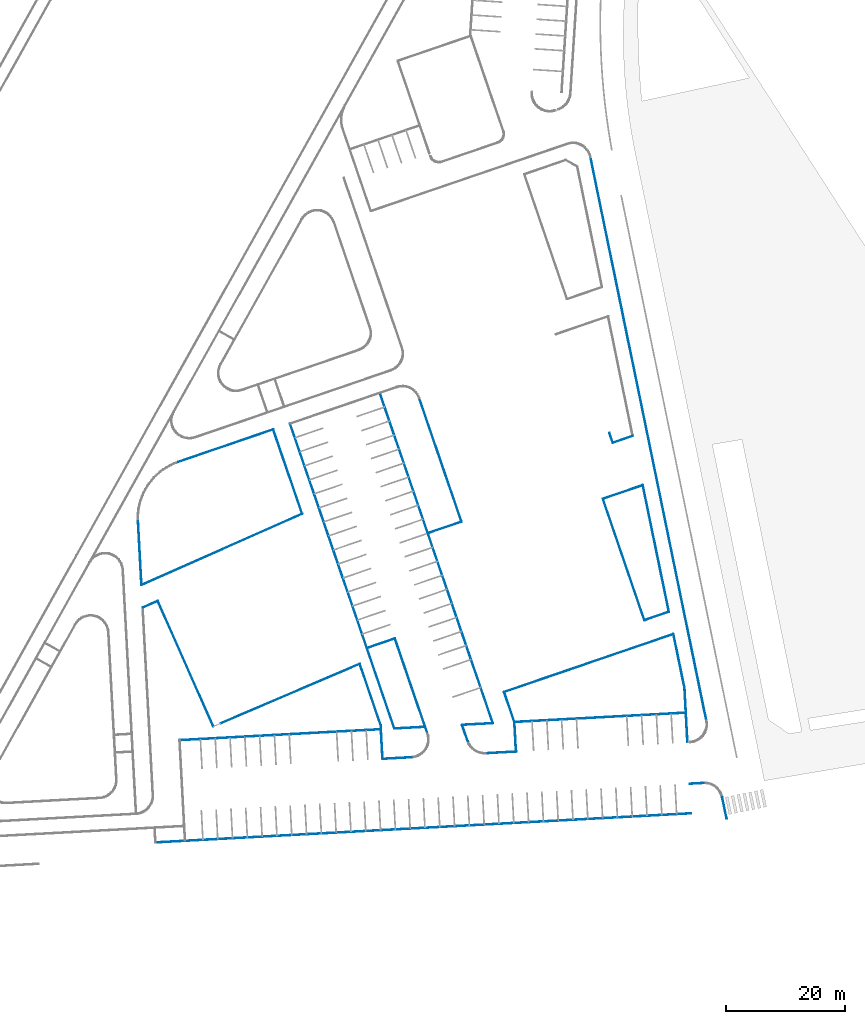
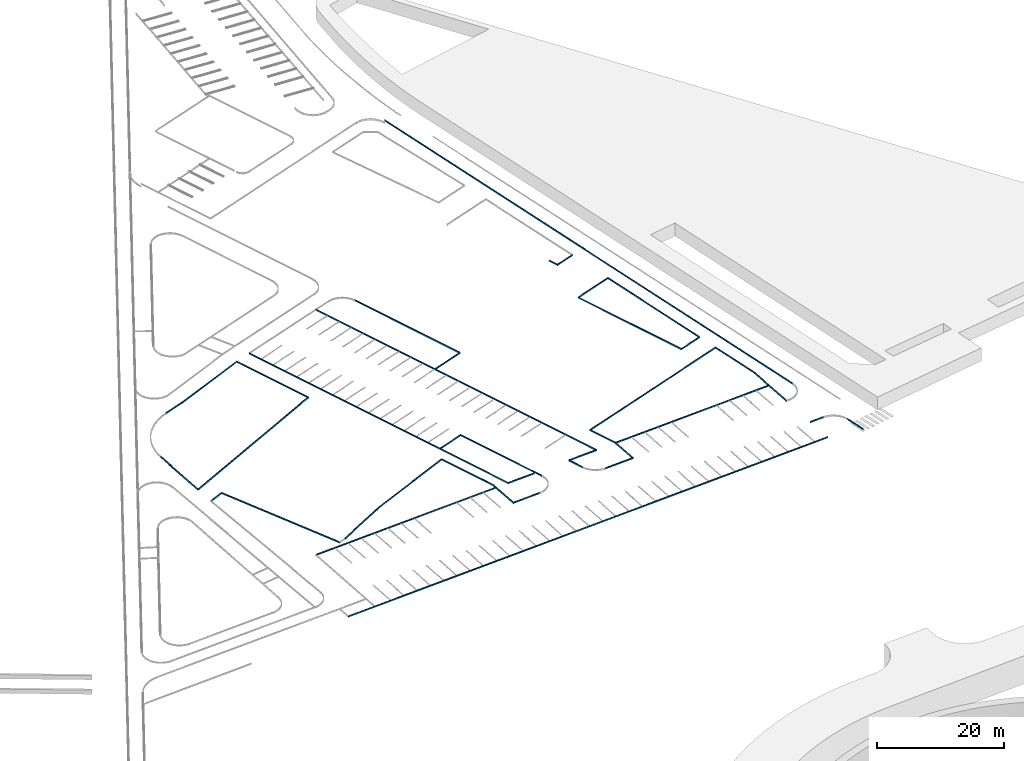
# One storey, part 4 of 112: 41 beams.
"""IFC2X3 building model written with IfcOpenShell, lengths in millimetres."""

import ifcopenshell
import ifcopenshell.guid

model = None  # the IFC model being written
_history = None  # IfcOwnerHistory: only IFC2X3 demands one
_inside = {}  # id of a spatial element -> (the spatial element, [elements in it])
_under = {}  # id of a project, library or spatial element -> (it, [spatial elements below it])
_declared = {}  # id of a project -> (the project, [libraries it declares])
_typed = {}  # id of a type object -> (the type object, [elements of that type])
_made_of = {}  # id of a material, layer set ... -> (it, [elements and type objects made of it])


def new_model(schema):
    """Start an empty IFC model of exactly this schema.

    Asked for "IFC4X3", IfcOpenShell would pick the latest addendum, in which some entities
    have other attributes; the version numbers below select the first issue.
    IFC2X3 requires an IfcOwnerHistory on every rooted entity: one is made here for all.
    """
    global model, _history
    if schema == "IFC4X3":
        model = ifcopenshell.file(schema_version=(4, 3, 0, 0))
    else:
        model = ifcopenshell.file(schema=schema)
    _inside.clear()
    _under.clear()
    _declared.clear()
    _typed.clear()
    _made_of.clear()
    _history = None
    if model.schema == "IFC2X3":
        org = make("IfcOrganization", Name="unknown")
        user = make(
            "IfcPersonAndOrganization",
            ThePerson=make("IfcPerson", FamilyName="unknown"),
            TheOrganization=org,
        )
        app = make(
            "IfcApplication",
            ApplicationDeveloper=org,
            Version="unknown",
            ApplicationFullName="unknown",
            ApplicationIdentifier="unknown",
        )
        _history = make(
            "IfcOwnerHistory",
            OwningUser=user,
            OwningApplication=app,
            ChangeAction="ADDED",
            CreationDate=0,
        )
    return model


def make(cls, **values):
    """One entity of the class cls with the attributes given. An attribute that is None is left unset."""
    return model.create_entity(
        cls, **{name: value for name, value in values.items() if value is not None}
    )


def entity(cls, *values):
    """Any entity or typed value of the class cls, its attributes in the order of the schema. None: left unset."""
    e = model.create_entity(cls)
    for i, value in enumerate(values):
        if value is not None:
            e[i] = value
    return e


def rooted(cls, **values):
    """An entity with a GlobalId (a new one), such as an element, a storey or a relation."""
    return make(cls, GlobalId=ifcopenshell.guid.new(), OwnerHistory=_history, **values)


def si_unit(unit_type, name, prefix=None):
    """IfcSIUnit, for example si_unit("LENGTHUNIT", "METRE", prefix="MILLI")."""
    return make("IfcSIUnit", UnitType=unit_type, Prefix=prefix, Name=name)


def converted_unit(unit_type, name, factor, base, dimensions=None, offset=None):
    """IfcConversionBasedUnit, such as the inch: factor (a typed value) times the base unit."""
    return make(
        "IfcConversionBasedUnit"
        if offset is None
        else "IfcConversionBasedUnitWithOffset",
        ConversionOffset=offset,
        Dimensions=None
        if dimensions is None
        else entity("IfcDimensionalExponents", *dimensions),
        UnitType=unit_type,
        Name=name,
        ConversionFactor=make(
            "IfcMeasureWithUnit", ValueComponent=factor, UnitComponent=base
        ),
    )


def derived_unit(unit_type, elements):
    """IfcDerivedUnit: a product of units, each with its exponent."""
    return make(
        "IfcDerivedUnit",
        Elements=[
            make("IfcDerivedUnitElement", Unit=unit, Exponent=power)
            for unit, power in elements
        ],
        UnitType=unit_type,
    )


def assignment(units):
    """IfcUnitAssignment: the units of a project."""
    return None if units is None else make("IfcUnitAssignment", Units=units)


def point(xyz):
    """IfcCartesianPoint."""
    return None if xyz is None else make("IfcCartesianPoint", Coordinates=xyz)


def direction(xyz):
    """IfcDirection."""
    return None if xyz is None else make("IfcDirection", DirectionRatios=xyz)


def frame(location, z_axis=None, x_axis=None):
    """IfcAxis2Placement3D, a coordinate frame: its origin and axes. An axis left out is left unset."""
    return make(
        "IfcAxis2Placement3D",
        Location=point(location),
        Axis=direction(z_axis),
        RefDirection=direction(x_axis),
    )


def frame_2d(location, x_axis=None):
    """IfcAxis2Placement2D, a coordinate frame in the plane: its origin and x axis."""
    return make(
        "IfcAxis2Placement2D", Location=point(location), RefDirection=direction(x_axis)
    )


def origin():
    """The frame at (0, 0, 0) with its axes left unset."""
    return frame((0.0, 0.0, 0.0))


def origin_2d_with_axis():
    """The frame at (0, 0) in the plane with the x axis (1, 0) written out."""
    return frame_2d((0.0, 0.0), x_axis=(1.0, 0.0))


def place(relative_to, where):
    """IfcLocalPlacement: puts the frame where relative to a parent placement (None: the world)."""
    return make(
        "IfcLocalPlacement", PlacementRelTo=relative_to, RelativePlacement=where
    )


def context(
    kind, dimensions, precision=None, world=None, true_north=None, identifier=None
):
    """IfcGeometricRepresentationContext, for example the 3D "Model" context."""
    return make(
        "IfcGeometricRepresentationContext",
        ContextIdentifier=identifier,
        ContextType=kind,
        CoordinateSpaceDimension=dimensions,
        Precision=precision,
        WorldCoordinateSystem=world,
        TrueNorth=true_north,
    )


def subcontext(parent, identifier, kind, view, scale=None):
    """IfcGeometricRepresentationSubContext, for example "Body" below "Model"."""
    return make(
        "IfcGeometricRepresentationSubContext",
        ContextIdentifier=identifier,
        ContextType=kind,
        ParentContext=parent,
        TargetScale=scale,
        TargetView=view,
    )


def project(units=None, contexts=None):
    """IfcProject with its units and contexts."""
    return rooted(
        "IfcProject",
        Name="project",
        RepresentationContexts=contexts,
        UnitsInContext=assignment(units),
    )


def spatial(cls, under=None, at=None, **own):
    """A site, building, storey or space (cls), placed at a placement, below another one or the project."""
    s = rooted(cls, ObjectPlacement=at, **own)
    if under is not None:
        _under.setdefault(under.id(), (under, []))[1].append(s)
    return s


def polyline(points):
    """IfcPolyline through the points."""
    return make("IfcPolyline", Points=[point(p) for p in points])


def profile(cls, at=None, kind="AREA", **sizes):
    """A parametric profile (cls). Its sizes go by their IFC names, for example OverallWidth=200.0."""
    return make(cls, ProfileType=kind, Position=at, **sizes)


def rectangle(**sizes):
    """IfcRectangleProfileDef."""
    return profile("IfcRectangleProfileDef", **sizes)


def outline(outer, holes=None, kind="AREA"):
    """IfcArbitraryClosedProfileDef: a profile drawn as a closed curve; with holes, ...WithVoids."""
    if holes is None:
        return make("IfcArbitraryClosedProfileDef", ProfileType=kind, OuterCurve=outer)
    return make(
        "IfcArbitraryProfileDefWithVoids",
        ProfileType=kind,
        OuterCurve=outer,
        InnerCurves=holes,
    )


def extrude(swept, where, along, depth):
    """IfcExtrudedAreaSolid: the profile swept, set in the frame where, extruded along a direction by depth."""
    return make(
        "IfcExtrudedAreaSolid",
        SweptArea=swept,
        Position=where,
        ExtrudedDirection=direction(along),
        Depth=depth,
    )


def shape(context_of_items, identifier, shape_type, items):
    """IfcShapeRepresentation: the items that make up one representation, for example the "Body"."""
    return make(
        "IfcShapeRepresentation",
        ContextOfItems=context_of_items,
        RepresentationIdentifier=identifier,
        RepresentationType=shape_type,
        Items=items,
    )


def material(Name=None, Category=None):
    """IfcMaterial."""
    return make("IfcMaterial", Name=Name, Category=Category)


def made_of(thing, what):
    """Note that an element or type object is made of a material, layer set ...; save() writes the relation."""
    if what is not None:
        _made_of.setdefault(what.id(), (what, []))[1].append(thing)
    return thing


def type_object(cls, material=None, **own):
    """A type object (cls), such as IfcWallType, which elements share."""
    return made_of(rooted(cls, **own), material)


def element(
    cls,
    number,
    at=None,
    inside=None,
    cuts=None,
    type_object=None,
    material=None,
    context=None,
    identifier="Body",
    shape_type=None,
    held_by="IfcProductDefinitionShape",
    body=None,
    shapes=None,
    **own,
):
    """One element of the class cls, such as IfcWall. Its Tag is "e" and its number.

    at: its placement. inside: the storey or other place that contains it. cuts: it is an
    opening in that element (IfcRelVoidsElement). A single representation is given by context,
    identifier, shape_type and body (its items); several are given by shapes. held_by: the class
    of the entity that holds the representations. save() writes the other relations.
    """
    e = rooted(cls, Tag="e%d" % number, ObjectPlacement=at, **own)
    if body is not None:
        shapes = [shape(context, identifier, shape_type, body)]
    if shapes is not None:
        e.Representation = make(held_by, Representations=shapes)
    if inside is not None:
        _inside.setdefault(inside.id(), (inside, []))[1].append(e)
    if cuts is not None:
        rooted(
            "IfcRelVoidsElement", RelatingBuildingElement=cuts, RelatedOpeningElement=e
        )
    if type_object is not None:
        _typed.setdefault(type_object.id(), (type_object, []))[1].append(e)
    return made_of(e, material)


def aggregate(whole, parts):
    """IfcRelAggregates: a whole, such as a stair, and the parts it consists of."""
    return rooted("IfcRelAggregates", RelatingObject=whole, RelatedObjects=parts)


def save(model, path):
    """Write the relations noted so far, then the file.

    IfcRelAggregates (storeys below a building ...), IfcRelContainedInSpatialStructure (elements
    in a storey), IfcRelDefinesByType, IfcRelAssociatesMaterial and IfcRelDeclares: one each for
    every whole, place, type object, material and project.
    """
    for whole, parts in _under.values():
        aggregate(whole, parts)
    for where, things in _inside.values():
        rooted(
            "IfcRelContainedInSpatialStructure",
            RelatedElements=things,
            RelatingStructure=where,
        )
    for kind, things in _typed.values():
        rooted("IfcRelDefinesByType", RelatedObjects=things, RelatingType=kind)
    for what, things in _made_of.values():
        rooted("IfcRelAssociatesMaterial", RelatedObjects=things, RelatingMaterial=what)
    for by, libraries in _declared.values():
        rooted("IfcRelDeclares", RelatingContext=by, RelatedDefinitions=libraries)
    model.write(path)


model = new_model("IFC2X3")

# Units and contexts
model_context = context("Model", 3, precision=0.01, world=origin(), true_north=direction((6.123031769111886e-17, 1.0)))
body_context = subcontext(model_context, "Body", "Model", "MODEL_VIEW")
ifc_project = project(units=[si_unit("LENGTHUNIT", "METRE", prefix="MILLI"), si_unit("AREAUNIT", "SQUARE_METRE"), si_unit("VOLUMEUNIT", "CUBIC_METRE"), converted_unit("PLANEANGLEUNIT", "DEGREE", entity("IfcRatioMeasure", 0.017453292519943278), si_unit("PLANEANGLEUNIT", "RADIAN"), dimensions=[0, 0, 0, 0, 0, 0, 0]), si_unit("MASSUNIT", "GRAM", prefix="KILO"), derived_unit("MASSDENSITYUNIT", [(si_unit("MASSUNIT", "GRAM", prefix="KILO"), 1), (si_unit("LENGTHUNIT", "METRE"), -3)]), derived_unit("MOMENTOFINERTIAUNIT", [(si_unit("LENGTHUNIT", "METRE"), 4)]), si_unit("TIMEUNIT", "SECOND"), si_unit("FREQUENCYUNIT", "HERTZ"), si_unit("THERMODYNAMICTEMPERATUREUNIT", "DEGREE_CELSIUS"), derived_unit("THERMALTRANSMITTANCEUNIT", [(si_unit("MASSUNIT", "GRAM", prefix="KILO"), 1), (si_unit("THERMODYNAMICTEMPERATUREUNIT", "KELVIN"), -1), (si_unit("TIMEUNIT", "SECOND"), -3)]), derived_unit("THERMALCONDUCTANCEUNIT", [(si_unit("MASSUNIT", "GRAM", prefix="KILO"), 1), (si_unit("LENGTHUNIT", "METRE"), 1), (si_unit("THERMODYNAMICTEMPERATUREUNIT", "KELVIN"), -1), (si_unit("TIMEUNIT", "SECOND"), -3)]), derived_unit("VOLUMETRICFLOWRATEUNIT", [(si_unit("LENGTHUNIT", "METRE"), 3), (si_unit("TIMEUNIT", "SECOND"), -1)]), derived_unit("MASSFLOWRATEUNIT", [(si_unit("MASSUNIT", "GRAM", prefix="KILO"), 1), (si_unit("TIMEUNIT", "SECOND"), -1)]), derived_unit("ROTATIONALFREQUENCYUNIT", [(si_unit("TIMEUNIT", "SECOND"), -1)]), si_unit("ELECTRICCURRENTUNIT", "AMPERE"), si_unit("ELECTRICVOLTAGEUNIT", "VOLT"), si_unit("POWERUNIT", "WATT"), converted_unit("FORCEUNIT", "KIP", entity("IfcRatioMeasure", 2.088543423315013e-05), si_unit("FORCEUNIT", "NEWTON"), dimensions=[1, 1, -2, 0, 0, 0, 0]), si_unit("ILLUMINANCEUNIT", "LUX"), si_unit("LUMINOUSFLUXUNIT", "LUMEN"), si_unit("LUMINOUSINTENSITYUNIT", "CANDELA"), derived_unit("USERDEFINED", [(si_unit("MASSUNIT", "GRAM", prefix="KILO"), -1), (si_unit("LENGTHUNIT", "METRE"), -2), (si_unit("TIMEUNIT", "SECOND"), 3), (si_unit("LUMINOUSFLUXUNIT", "LUMEN"), 1)]), derived_unit("USERDEFINED", [(si_unit("MASSUNIT", "GRAM", prefix="KILO"), 1), (si_unit("LENGTHUNIT", "METRE"), 3), (si_unit("TIMEUNIT", "SECOND"), -3), (si_unit("ELECTRICCURRENTUNIT", "AMPERE"), -2)]), derived_unit("USERDEFINED", [(si_unit("LENGTHUNIT", "METRE"), 2), (si_unit("TIMEUNIT", "SECOND"), -2)]), derived_unit("SOUNDPOWERUNIT", [(si_unit("MASSUNIT", "GRAM", prefix="KILO"), 1), (si_unit("LENGTHUNIT", "METRE"), 2), (si_unit("TIMEUNIT", "SECOND"), -3)]), derived_unit("SOUNDPRESSUREUNIT", [(si_unit("MASSUNIT", "GRAM", prefix="KILO"), 1), (si_unit("LENGTHUNIT", "METRE"), -1), (si_unit("TIMEUNIT", "SECOND"), -2)]), derived_unit("LINEARVELOCITYUNIT", [(si_unit("LENGTHUNIT", "METRE"), 1), (si_unit("TIMEUNIT", "SECOND"), -1)]), si_unit("PRESSUREUNIT", "PASCAL"), derived_unit("USERDEFINED", [(si_unit("LENGTHUNIT", "METRE"), -2), (si_unit("MASSUNIT", "GRAM", prefix="KILO"), 1), (si_unit("TIMEUNIT", "SECOND"), -2)]), derived_unit("LINEARFORCEUNIT", [(si_unit("MASSUNIT", "GRAM", prefix="KILO"), 1), (si_unit("LENGTHUNIT", "METRE"), 1), (si_unit("TIMEUNIT", "SECOND"), -2), (si_unit("LENGTHUNIT", "METRE"), -1)]), derived_unit("PLANARFORCEUNIT", [(si_unit("MASSUNIT", "GRAM", prefix="KILO"), 1), (si_unit("LENGTHUNIT", "METRE"), 1), (si_unit("TIMEUNIT", "SECOND"), -2), (si_unit("LENGTHUNIT", "METRE"), -2)]), derived_unit("SPECIFICHEATCAPACITYUNIT", [(si_unit("LENGTHUNIT", "METRE"), 2), (si_unit("TIMEUNIT", "SECOND"), -2), (si_unit("THERMODYNAMICTEMPERATUREUNIT", "KELVIN"), -1)]), derived_unit("VAPORPERMEABILITYUNIT", [(si_unit("TIMEUNIT", "SECOND"), 1), (si_unit("LENGTHUNIT", "METRE"), -1)]), derived_unit("DYNAMICVISCOSITYUNIT", [(si_unit("MASSUNIT", "GRAM", prefix="KILO"), 1), (si_unit("LENGTHUNIT", "METRE"), -1), (si_unit("TIMEUNIT", "SECOND"), -1)]), derived_unit("THERMALEXPANSIONCOEFFICIENTUNIT", [(si_unit("THERMODYNAMICTEMPERATUREUNIT", "KELVIN"), -1)])], contexts=[model_context])

# Site, building, storey
site_placement = place(None, frame((0.0, 0.0, 0.0), z_axis=(0.0, 0.0, 1.0), x_axis=(0.8191520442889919, 0.5735764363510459, 0.0)))
site = spatial("IfcSite", under=ifc_project, at=site_placement, Name="Default", CompositionType="ELEMENT")
building_placement = place(site_placement, origin())
building = spatial("IfcBuilding", under=site, at=building_placement, CompositionType="ELEMENT")
storey_placement = place(building_placement, frame((0.0, 0.0, -3600.0)))
storey = spatial("IfcBuildingStorey", under=building, at=storey_placement, Name="0.UG -3.60", CompositionType="ELEMENT", Elevation=-3600.0000000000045)

# Beams
ifc_material_1 = material(Name="Paveta_bordur")
beam_type_1 = type_object("IfcBeamType", Name="Beam-148 238221:Beam-148 238221", PredefinedType="NOTDEFINED")
beam_1_placement = place(storey_placement, origin())
element("IfcBeam", 1, at=beam_1_placement, inside=storey, type_object=beam_type_1, material=ifc_material_1, Name="Beam-148", ObjectType="Beam-148 238221:Beam-148 238221", context=body_context, shape_type="SweptSolid", body=[
    extrude(rectangle(XDim=250.00000000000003, YDim=100.0000000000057, at=frame_2d((2.7000623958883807e-13, 0.0), x_axis=(1.0, 0.0))), frame((13169.27370526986, 111675.39253456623, 985.0), z_axis=(0.9607329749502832, -0.27747459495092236, 0.0), x_axis=(0.0, 0.0, -1.0)), (0.0, 0.0, 1.0), 3960.1009387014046),
])
ifc_material_2 = material(Name="Paint-01")
beam_type_2 = type_object("IfcBeamType", Name="Beam-153 238199:Beam-153 238199", PredefinedType="NOTDEFINED")
beam_2_placement = place(storey_placement, origin())
element("IfcBeam", 2, at=beam_2_placement, inside=storey, type_object=beam_type_2, material=ifc_material_2, Name="Beam-153", ObjectType="Beam-153 238199:Beam-153 238199", context=body_context, shape_type="SweptSolid", body=[
    extrude(outline(polyline([(-4426.287011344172, -125.0), (4454.331498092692, -125.0), (4426.287011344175, 125.0), (-4454.331498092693, 125.0), (-4426.287011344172, -125.0)])), frame((-1919.4892485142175, 70501.17873786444, 1479.2159656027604), z_axis=(0.20554091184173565, 0.9786485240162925, 0.0), x_axis=(-0.9725484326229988, 0.20425973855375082, -0.1114787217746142)), (0.0, 0.0, 1.0), 100.00000000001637),
])
beam_type_3 = type_object("IfcBeamType", Name="Beam-165 237974:Beam-165 237974", PredefinedType="NOTDEFINED")
beam_3_placement = place(storey_placement, origin())
element("IfcBeam", 3, at=beam_3_placement, inside=storey, type_object=beam_type_3, material=ifc_material_1, Name="Beam-165", ObjectType="Beam-165 237974:Beam-165 237974", context=body_context, shape_type="SweptSolid", body=[
    extrude(rectangle(XDim=250.00000000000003, YDim=99.99999999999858, at=frame_2d((3.673505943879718e-12, 0.0), x_axis=(0.0, 1.0))), frame((59065.214530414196, 27915.97074226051, 1985.0), z_axis=(0.5283279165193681, 0.8490404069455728, 0.0), x_axis=(0.8490404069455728, -0.5283279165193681, 0.0)), (0.0, 0.0, 1.0), 4201.481675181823),
])
beam_type_4 = type_object("IfcBeamType", Name="Beam-146 237399:Beam-146 237399", PredefinedType="NOTDEFINED")
beam_4_placement = place(storey_placement, origin())
element("IfcBeam", 4, at=beam_4_placement, inside=storey, type_object=beam_type_4, material=ifc_material_2, Name="Beam-146", ObjectType="Beam-146 237399:Beam-146 237399", context=body_context, shape_type="SweptSolid", body=[
    extrude(outline(polyline([(-13665.303815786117, -125.0), (13674.362537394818, -125.0), (13665.303815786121, 125.0), (-13674.36253739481, 125.0), (-13665.303815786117, -125.0)])), frame((9617.0371733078, 95541.30141555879, 1479.9179664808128), z_axis=(0.19236652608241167, 0.9813231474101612, 0.0), x_axis=(0.9806795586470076, -0.19224036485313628, 0.03621112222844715)), (0.0, 0.0, 1.0), 100.00000000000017),
])
beam_type_5 = type_object("IfcBeamType", Name="Beam-146 237398:Beam-146 237398", PredefinedType="NOTDEFINED")
beam_5_placement = place(storey_placement, origin())
element("IfcBeam", 5, at=beam_5_placement, inside=storey, type_object=beam_type_5, material=ifc_material_1, Name="Beam-146", ObjectType="Beam-146 237398:Beam-146 237398", context=body_context, shape_type="SweptSolid", body=[
    extrude(rectangle(XDim=250.00000000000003, YDim=100.0000000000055, at=frame_2d((0.0, 0.0), x_axis=(0.0, 1.0))), frame((23032.38146600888, 92962.47385558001, 2010.6807079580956), z_axis=(0.9813231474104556, -0.19236652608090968, 0.0), x_axis=(-0.19236652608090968, -0.9813231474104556, 0.0)), (0.0, 0.0, 1.0), 2309.356861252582),
])
beam_type_6 = type_object("IfcBeamType", Name="Beam-145 237387:Beam-145 237387", PredefinedType="NOTDEFINED")
beam_6_placement = place(storey_placement, origin())
element("IfcBeam", 6, at=beam_6_placement, inside=storey, type_object=beam_type_6, material=ifc_material_1, Name="Beam-145", ObjectType="Beam-145 237387:Beam-145 237387", context=body_context, shape_type="SweptSolid", body=[
    extrude(rectangle(XDim=250.00000000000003, YDim=99.99999999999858, at=frame_2d((2.7000623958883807e-13, -7.794653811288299e-12), x_axis=(1.0, 0.0))), frame((-3779.0704667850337, 98218.26129027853, 985.0), z_axis=(0.5283279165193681, 0.8490404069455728, 0.0), x_axis=(0.0, 0.0, -1.0)), (0.0, 0.0, 1.0), 10756.944646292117),
])
beam_type_7 = type_object("IfcBeamType", Name="Beam-147 237382:Beam-147 237382", PredefinedType="NOTDEFINED")
beam_7_placement = place(storey_placement, origin())
element("IfcBeam", 7, at=beam_7_placement, inside=storey, type_object=beam_type_7, material=ifc_material_1, Name="Beam-147", ObjectType="Beam-147 237382:Beam-147 237382", context=body_context, shape_type="SweptSolid", body=[
    extrude(rectangle(XDim=250.00000000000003, YDim=100.00000000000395, at=frame_2d((-4.479971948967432e-12, 0.0), x_axis=(0.0, 1.0))), frame((25298.606809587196, 92518.23089869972, 1985.0), z_axis=(0.2774745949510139, 0.9607329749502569, 0.0), x_axis=(0.9607329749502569, -0.2774745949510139, 0.0)), (0.0, 0.0, 1.0), 15039.335099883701),
])
beam_type_8 = type_object("IfcBeamType", Name="Beam-148 237381:Beam-148 237381", PredefinedType="NOTDEFINED")
beam_8_placement = place(storey_placement, origin())
element("IfcBeam", 8, at=beam_8_placement, inside=storey, type_object=beam_type_8, material=ifc_material_2, Name="Beam-148", ObjectType="Beam-148 237381:Beam-148 237381", context=body_context, shape_type="SweptSolid", body=[
    extrude(outline(polyline([(-6514.363546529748, -125.0), (6533.90943481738, -125.0), (6514.363546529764, 125.0), (-6533.909434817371, 125.0), (-6514.363546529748, -125.0)])), frame((23208.88301323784, 108723.75394181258, 1476.0902326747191), z_axis=(0.27747459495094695, 0.9607329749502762, 0.0), x_axis=(-0.9578100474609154, 0.27663040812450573, -0.07794568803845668)), (0.0, 0.0, 1.0), 100.00000000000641),
])
beam_type_9 = type_object("IfcBeamType", Name="Beam-148 237353:Beam-148 237353", PredefinedType="NOTDEFINED")
beam_9_placement = place(storey_placement, origin())
element("IfcBeam", 9, at=beam_9_placement, inside=storey, type_object=beam_type_9, material=ifc_material_1, Name="Beam-148", ObjectType="Beam-148 237353:Beam-148 237353", context=body_context, shape_type="SweptSolid", body=[
    extrude(rectangle(XDim=250.00000000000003, YDim=99.99999999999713, at=frame_2d((2.7000623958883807e-13, 1.0302869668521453e-13), x_axis=(1.0, 0.0))), frame((-5790.415317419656, 94985.96370180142, 985.0), z_axis=(0.9813231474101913, -0.19236652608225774, 0.0), x_axis=(0.0, 0.0, -1.0)), (0.0, 0.0, 1.0), 2772.992125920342),
])
beam_type_10 = type_object("IfcBeamType", Name="Beam-151 237315:Beam-151 237315", PredefinedType="NOTDEFINED")
beam_10_placement = place(storey_placement, origin())
element("IfcBeam", 10, at=beam_10_placement, inside=storey, type_object=beam_type_10, material=ifc_material_1, Name="Beam-151", ObjectType="Beam-151 237315:Beam-151 237315", context=body_context, shape_type="SweptSolid", body=[
    extrude(rectangle(XDim=250.00000000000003, YDim=100.00000000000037, at=frame_2d((5.258016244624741e-13, -2.7000623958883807e-13), x_axis=(0.0, 1.0))), frame((-7537.205577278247, 71732.13194232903, 985.0), z_axis=(0.1929555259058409, 0.9812075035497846, 0.0), x_axis=(0.9812075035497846, -0.1929555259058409, 0.0)), (0.0, 0.0, 1.0), 23155.551517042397),
])
beam_type_11 = type_object("IfcBeamType", Name="Beam-151 237307:Beam-151 237307", PredefinedType="NOTDEFINED")
beam_11_placement = place(storey_placement, origin())
element("IfcBeam", 11, at=beam_11_placement, inside=storey, type_object=beam_type_11, material=ifc_material_1, Name="Beam-151", ObjectType="Beam-151 237307:Beam-151 237307", context=body_context, shape_type="SweptSolid", body=[
    extrude(rectangle(XDim=250.00000000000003, YDim=99.99999999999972, at=frame_2d((-4.2525982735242e-12, 0.0), x_axis=(0.0, 1.0))), frame((-13527.740272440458, 73088.00759018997, 1985.0), z_axis=(0.849040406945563, -0.5283279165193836, 0.0), x_axis=(-0.5283279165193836, -0.849040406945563, 0.0)), (0.0, 0.0, 1.0), 34000.0),
])
beam_type_12 = type_object("IfcBeamType", Name="Beam-153 237306:Beam-153 237306", PredefinedType="NOTDEFINED")
beam_12_placement = place(storey_placement, origin())
element("IfcBeam", 12, at=beam_12_placement, inside=storey, type_object=beam_type_12, material=ifc_material_1, Name="Beam-153", ObjectType="Beam-153 237306:Beam-153 237306", context=body_context, shape_type="SweptSolid", body=[
    extrude(rectangle(XDim=250.00000000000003, YDim=99.99999999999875, at=frame_2d((0.0, 4.433786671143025e-12), x_axis=(1.0, 0.0))), frame((2390.6263118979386, 69647.03645703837, 1985.0), z_axis=(0.9786485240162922, -0.20554091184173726, 0.0), x_axis=(0.0, 0.0, -1.0)), (0.0, 0.0, 1.0), 16708.186103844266),
])
beam_type_13 = type_object("IfcBeamType", Name="Beam-155 237293:Beam-155 237293", PredefinedType="NOTDEFINED")
beam_13_placement = place(storey_placement, origin())
element("IfcBeam", 13, at=beam_13_placement, inside=storey, type_object=beam_type_13, material=ifc_material_1, Name="Beam-155", ObjectType="Beam-155 237293:Beam-155 237293", context=body_context, shape_type="SweptSolid", body=[
    extrude(rectangle(XDim=250.00000000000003, YDim=99.99999999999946, at=frame_2d((2.241762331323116e-12, 0.0), x_axis=(0.0, 1.0))), frame((15712.972430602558, 55724.8263150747, 1985.0), z_axis=(0.27747459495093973, 0.9607329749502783, 0.0), x_axis=(0.9607329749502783, -0.27747459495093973, 0.0)), (0.0, 0.0, 1.0), 10916.659059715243),
])
beam_type_14 = type_object("IfcBeamType", Name="Beam-156 237292:Beam-156 237292", PredefinedType="NOTDEFINED")
beam_14_placement = place(storey_placement, origin())
element("IfcBeam", 14, at=beam_14_placement, inside=storey, type_object=beam_type_14, material=ifc_material_1, Name="Beam-156", ObjectType="Beam-156 237292:Beam-156 237292", context=body_context, shape_type="SweptSolid", body=[
    extrude(rectangle(XDim=250.00000000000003, YDim=99.99999999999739, at=frame_2d((-5.364597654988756e-12, 0.0), x_axis=(0.0, 1.0))), frame((46553.099724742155, 76011.82680295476, 1985.0), z_axis=(0.2774745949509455, 0.9607329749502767, 0.0), x_axis=(0.9607329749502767, -0.2774745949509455, 0.0)), (0.0, 0.0, 1.0), 22000.000000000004),
])
beam_type_15 = type_object("IfcBeamType", Name="Beam-158 237290:Beam-158 237290", PredefinedType="NOTDEFINED")
beam_15_placement = place(storey_placement, origin())
element("IfcBeam", 15, at=beam_15_placement, inside=storey, type_object=beam_type_15, material=ifc_material_1, Name="Beam-158", ObjectType="Beam-158 237290:Beam-158 237290", context=body_context, shape_type="SweptSolid", body=[
    extrude(rectangle(XDim=250.00000000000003, YDim=100.00000000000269, at=origin_2d_with_axis()), frame((31390.695141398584, 45136.84862965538, 1985.0), z_axis=(0.27747459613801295, 0.9607329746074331, 0.0), x_axis=(0.0, 0.0, -1.0)), (0.0, 0.0, 1.0), 58869.79170220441),
])
beam_type_16 = type_object("IfcBeamType", Name="Beam-159 237277:Beam-159 237277", PredefinedType="NOTDEFINED")
beam_16_placement = place(storey_placement, origin())
element("IfcBeam", 16, at=beam_16_placement, inside=storey, type_object=beam_type_16, material=ifc_material_1, Name="Beam-159", ObjectType="Beam-159 237277:Beam-159 237277", context=body_context, shape_type="SweptSolid", body=[
    extrude(rectangle(XDim=250.00000000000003, YDim=99.99999999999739, at=frame_2d((5.364597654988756e-12, 0.0), x_axis=(0.0, 1.0))), frame((40788.7019152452, 77676.6743610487, 1985.0), z_axis=(0.9607329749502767, -0.2774745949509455, 0.0), x_axis=(-0.2774745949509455, -0.9607329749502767, 0.0)), (0.0, 0.0, 1.0), 5999.999958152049),
])
beam_type_17 = type_object("IfcBeamType", Name="Beam-162 237270:Beam-162 237270", PredefinedType="NOTDEFINED")
beam_17_placement = place(storey_placement, origin())
element("IfcBeam", 17, at=beam_17_placement, inside=storey, type_object=beam_type_17, material=ifc_material_1, Name="Beam-162", ObjectType="Beam-162 237270:Beam-162 237270", context=body_context, shape_type="SweptSolid", body=[
    extrude(rectangle(XDim=250.00000000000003, YDim=100.00000000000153, at=frame_2d((0.0, 3.282707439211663e-12), x_axis=(1.0, 0.0))), frame((34478.76067984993, 43215.25429956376, 1985.0), z_axis=(0.2774745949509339, 0.9607329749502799, 0.0), x_axis=(0.0, 0.0, -1.0)), (0.0, 0.0, 1.0), 5359.071005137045),
])
beam_type_18 = type_object("IfcBeamType", Name="Beam-163 237266:Beam-163 237266", PredefinedType="NOTDEFINED")
beam_18_placement = place(storey_placement, origin())
element("IfcBeam", 18, at=beam_18_placement, inside=storey, type_object=beam_type_18, material=ifc_material_1, Name="Beam-163", ObjectType="Beam-163 237266:Beam-163 237266", context=body_context, shape_type="SweptSolid", body=[
    extrude(rectangle(XDim=250.00000000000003, YDim=99.99999999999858, at=frame_2d((3.673505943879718e-12, 0.0), x_axis=(0.0, 1.0))), frame((34478.76067984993, 43215.25429956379, 1985.0), z_axis=(0.8490404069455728, -0.5283279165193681, 0.0), x_axis=(-0.5283279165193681, -0.8490404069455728, 0.0)), (0.0, 0.0, 1.0), 28957.931388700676),
])
beam_type_19 = type_object("IfcBeamType", Name="Beam-167 237265:Beam-167 237265", PredefinedType="NOTDEFINED")
beam_19_placement = place(storey_placement, origin())
element("IfcBeam", 19, at=beam_19_placement, inside=storey, type_object=beam_type_19, material=ifc_material_1, Name="Beam-167", ObjectType="Beam-167 237265:Beam-167 237265", context=body_context, shape_type="SweptSolid", body=[
    extrude(rectangle(XDim=250.00000000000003, YDim=99.99999999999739, at=frame_2d((0.0, 4.163780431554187e-12), x_axis=(1.0, 0.0))), frame((35965.76673631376, 48363.89052929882, 1985.0), z_axis=(0.9607329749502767, -0.2774745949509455, 0.0), x_axis=(0.0, 0.0, -1.0)), (0.0, 0.0, 1.0), 30181.220048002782),
])
beam_type_20 = type_object("IfcBeamType", Name="Beam-165 237264:Beam-165 237264", PredefinedType="NOTDEFINED")
beam_20_placement = place(storey_placement, origin())
element("IfcBeam", 20, at=beam_20_placement, inside=storey, type_object=beam_type_20, material=ifc_material_1, Name="Beam-165", ObjectType="Beam-165 237264:Beam-165 237264", context=body_context, shape_type="SweptSolid", body=[
    extrude(rectangle(XDim=250.00000000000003, YDim=99.99999999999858, at=frame_2d((-3.673505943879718e-12, 0.0), x_axis=(0.0, 1.0))), frame((56423.57495638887, 23670.76872130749, 1985.0), z_axis=(0.5283279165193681, 0.8490404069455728, 0.0), x_axis=(0.8490404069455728, -0.5283279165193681, 0.0)), (0.0, 0.0, 1.0), 4999.999983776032),
])
beam_type_21 = type_object("IfcBeamType", Name="Beam-166 237260:Beam-166 237260", PredefinedType="NOTDEFINED")
beam_21_placement = place(storey_placement, origin())
element("IfcBeam", 21, at=beam_21_placement, inside=storey, type_object=beam_type_21, material=ifc_material_1, Name="Beam-166", ObjectType="Beam-166 237260:Beam-166 237260", context=body_context, shape_type="SweptSolid", body=[
    extrude(rectangle(XDim=250.00000000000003, YDim=99.99999999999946, at=frame_2d((3.9754866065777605e-12, 0.0), x_axis=(0.0, 1.0))), frame((61284.974590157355, 31483.19845353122, 1985.0), z_axis=(0.3967785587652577, 0.9179143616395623, 0.0), x_axis=(0.9179143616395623, -0.3967785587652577, 0.0)), (0.0, 0.0, 1.0), 9266.845169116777),
])
beam_type_22 = type_object("IfcBeamType", Name="Beam-162 237253:Beam-162 237253", PredefinedType="NOTDEFINED")
beam_22_placement = place(storey_placement, origin())
element("IfcBeam", 22, at=beam_22_placement, inside=storey, type_object=beam_type_22, material=ifc_material_1, Name="Beam-162", ObjectType="Beam-162 237253:Beam-162 237253", context=body_context, shape_type="SweptSolid", body=[
    extrude(rectangle(XDim=250.00000000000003, YDim=99.99999999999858, at=origin_2d_with_axis()), frame((31837.121107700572, 38970.05228162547, 1985.0), z_axis=(0.5283279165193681, 0.8490404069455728, 0.0), x_axis=(0.0, 0.0, -1.0)), (0.0, 0.0, 1.0), 4999.999980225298),
])
beam_type_23 = type_object("IfcBeamType", Name="Beam-177 237234:Beam-177 237234", PredefinedType="NOTDEFINED")
beam_23_placement = place(storey_placement, origin())
element("IfcBeam", 23, at=beam_23_placement, inside=storey, type_object=beam_type_23, material=ifc_material_1, Name="Beam-177", ObjectType="Beam-177 237234:Beam-177 237234", context=body_context, shape_type="SweptSolid", body=[
    extrude(rectangle(XDim=250.00000000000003, YDim=99.99999999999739, at=frame_2d((0.0, 5.364597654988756e-12), x_axis=(1.0, 0.0))), frame((68288.900989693, 65496.633553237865, 1985.0), z_axis=(0.9607329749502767, -0.2774745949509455, 0.0), x_axis=(0.0, 0.0, -1.0)), (0.0, 0.0, 1.0), 7124.027537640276),
])
beam_type_24 = type_object("IfcBeamType", Name="Beam-173 237229:Beam-173 237229", PredefinedType="NOTDEFINED")
beam_24_placement = place(storey_placement, origin())
element("IfcBeam", 24, at=beam_24_placement, inside=storey, type_object=beam_type_24, material=ifc_material_1, Name="Beam-173", ObjectType="Beam-173 237229:Beam-173 237229", context=body_context, shape_type="SweptSolid", body=[
    extrude(rectangle(XDim=250.00000000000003, YDim=99.99999999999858, at=frame_2d((0.0, 0.0), x_axis=(0.0, 1.0))), frame((12697.99399012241, 50879.65640828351, 1985.0), z_axis=(0.5283279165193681, 0.8490404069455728, 0.0), x_axis=(0.8490404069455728, -0.5283279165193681, 0.0)), (0.0, 0.0, 1.0), 5706.642307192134),
])
beam_type_25 = type_object("IfcBeamType", Name="Beam-176 237222:Beam-176 237222", PredefinedType="NOTDEFINED")
beam_25_placement = place(storey_placement, origin())
element("IfcBeam", 25, at=beam_25_placement, inside=storey, type_object=beam_type_25, material=ifc_material_1, Name="Beam-176", ObjectType="Beam-176 237222:Beam-176 237222", context=body_context, shape_type="SweptSolid", body=[
    extrude(rectangle(XDim=250.00000000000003, YDim=99.99999999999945, at=frame_2d((5.6914473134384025e-12, 0.0), x_axis=(0.0, 1.0))), frame((66481.8291564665, 43505.69144461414, 1985.0), z_axis=(0.3967785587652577, 0.9179143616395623, 0.0), x_axis=(0.9179143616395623, -0.3967785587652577, 0.0)), (0.0, 0.0, 1.0), 21804.00077568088),
])
beam_type_26 = type_object("IfcBeamType", Name="Beam-178 237212:Beam-178 237212", PredefinedType="NOTDEFINED")
beam_26_placement = place(storey_placement, origin())
element("IfcBeam", 26, at=beam_26_placement, inside=storey, type_object=beam_type_26, material=ifc_material_1, Name="Beam-178", ObjectType="Beam-178 237212:Beam-178 237212", context=body_context, shape_type="SweptSolid", body=[
    extrude(rectangle(XDim=250.00000000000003, YDim=99.99999999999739, at=frame_2d((0.0, 5.364597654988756e-12), x_axis=(1.0, 0.0))), frame((62287.447438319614, 44717.093986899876, 1985.0), z_axis=(0.2774745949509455, 0.9607329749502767, 0.0), x_axis=(0.0, 0.0, -1.0)), (0.0, 0.0, 1.0), 21628.839758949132),
])
beam_type_27 = type_object("IfcBeamType", Name="Beam-179 237208:Beam-179 237208", PredefinedType="NOTDEFINED")
beam_27_placement = place(storey_placement, origin())
element("IfcBeam", 27, at=beam_27_placement, inside=storey, type_object=beam_type_27, material=ifc_material_1, Name="Beam-179", ObjectType="Beam-179 237208:Beam-179 237208", context=body_context, shape_type="SweptSolid", body=[
    extrude(rectangle(XDim=250.00000000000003, YDim=99.99999999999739, at=frame_2d((-5.364597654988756e-12, 0.0), x_axis=(0.0, 1.0))), frame((62287.4474383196, 44717.09398689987, 1985.0), z_axis=(0.9607329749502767, -0.2774745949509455, 0.0), x_axis=(-0.2774745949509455, -0.9607329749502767, 0.0)), (0.0, 0.0, 1.0), 4365.814255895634),
])
beam_type_28 = type_object("IfcBeamType", Name="Beam-175 237123:Beam-175 237123", PredefinedType="NOTDEFINED")
beam_28_placement = place(storey_placement, origin())
element("IfcBeam", 28, at=beam_28_placement, inside=storey, type_object=beam_type_28, material=ifc_material_1, Name="Beam-175", ObjectType="Beam-175 237123:Beam-175 237123", context=body_context, shape_type="SweptSolid", body=[
    extrude(rectangle(XDim=250.00000000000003, YDim=100.00000000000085, at=frame_2d((4.82458517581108e-12, 0.0), x_axis=(0.0, 1.0))), frame((-26754.51686997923, 61295.96028366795, 1985.0), z_axis=(0.8490404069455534, -0.5283279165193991, 0.0), x_axis=(-0.5283279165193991, -0.8490404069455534, 0.0)), (0.0, 0.0, 1.0), 90499.99999999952),
])
beam_type_29 = type_object("IfcBeamType", Name="Beam-157 237118:Beam-157 237118", PredefinedType="NOTDEFINED")
beam_29_placement = place(storey_placement, origin())
element("IfcBeam", 29, at=beam_29_placement, inside=storey, type_object=beam_type_29, material=ifc_material_1, Name="Beam-157", ObjectType="Beam-157 237118:Beam-157 237118", context=body_context, shape_type="SweptSolid", body=[
    extrude(rectangle(XDim=250.00000000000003, YDim=99.99999999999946, at=frame_2d((0.0, -2.241762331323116e-12), x_axis=(1.0, 0.0))), frame((17273.824103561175, 53921.27983590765, 1985.0), z_axis=(0.27747459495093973, 0.9607329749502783, 0.0), x_axis=(0.0, 0.0, -1.0)), (0.0, 0.0, 1.0), 54347.372049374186),
])
beam_type_30 = type_object("IfcBeamType", Name="Beam-158 237110:Beam-158 237110", PredefinedType="NOTDEFINED")
beam_30_placement = place(storey_placement, origin())
element("IfcBeam", 30, at=beam_30_placement, inside=storey, type_object=beam_type_30, material=ifc_material_1, Name="Beam-158", ObjectType="Beam-158 237110:Beam-158 237110", context=body_context, shape_type="SweptSolid", body=[
    extrude(rectangle(XDim=250.00000000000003, YDim=99.99999999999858, at=frame_2d((4.82103246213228e-12, 0.0), x_axis=(0.0, 1.0))), frame((17273.82410356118, 53921.27983590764, 1985.0), z_axis=(0.8490404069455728, -0.5283279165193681, 0.0), x_axis=(-0.5283279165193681, -0.8490404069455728, 0.0)), (0.0, 0.0, 1.0), 4913.240694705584),
])
beam_type_31 = type_object("IfcBeamType", Name="Beam-159 237105:Beam-159 237105", PredefinedType="NOTDEFINED")
beam_31_placement = place(storey_placement, origin())
element("IfcBeam", 31, at=beam_31_placement, inside=storey, type_object=beam_type_31, material=ifc_material_1, Name="Beam-159", ObjectType="Beam-159 237105:Beam-159 237105", context=body_context, shape_type="SweptSolid", body=[
    extrude(rectangle(XDim=250.00000000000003, YDim=99.99999999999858, at=frame_2d((-3.673505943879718e-12, 0.0), x_axis=(0.0, 1.0))), frame((26979.17294361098, 47881.9833869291, 1985.0), z_axis=(0.8490404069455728, -0.5283279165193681, 0.0), x_axis=(-0.5283279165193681, -0.8490404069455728, 0.0)), (0.0, 0.0, 1.0), 5195.891928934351),
])
beam_type_32 = type_object("IfcBeamType", Name="Beam-158 237053:Beam-158 237053", PredefinedType="NOTDEFINED")
beam_32_placement = place(storey_placement, origin())
element("IfcBeam", 32, at=beam_32_placement, inside=storey, type_object=beam_type_32, material=ifc_material_1, Name="Beam-158", ObjectType="Beam-158 237053:Beam-158 237053", context=body_context, shape_type="SweptSolid", body=[
    extrude(rectangle(XDim=250.00000000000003, YDim=100.00000000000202, at=frame_2d((4.2525982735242e-12, 0.0), x_axis=(0.0, 1.0))), frame((12697.993990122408, 50879.65640828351, 1985.0), z_axis=(0.8490404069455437, -0.5283279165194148, 0.0), x_axis=(-0.5283279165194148, -0.8490404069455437, 0.0)), (0.0, 0.0, 1.0), 4921.749318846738),
])
beam_type_33 = type_object("IfcBeamType", Name="Beam-157 237033:Beam-157 237033", PredefinedType="NOTDEFINED")
beam_33_placement = place(storey_placement, origin())
element("IfcBeam", 33, at=beam_33_placement, inside=storey, type_object=beam_type_33, material=ifc_material_1, Name="Beam-157", ObjectType="Beam-157 237033:Beam-157 237033", context=body_context, shape_type="SweptSolid", body=[
    extrude(rectangle(XDim=250.00000000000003, YDim=99.99999999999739, at=frame_2d((0.0, 4.163780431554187e-12), x_axis=(1.0, 0.0))), frame((21254.855351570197, 67705.27326762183, 1985.0), z_axis=(0.9607329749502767, -0.2774745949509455, 0.0), x_axis=(0.0, 0.0, -1.0)), (0.0, 0.0, 1.0), 5000.0000000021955),
])
beam_type_34 = type_object("IfcBeamType", Name="Beam-170 237028:Beam-170 237028", PredefinedType="NOTDEFINED")
beam_34_placement = place(storey_placement, origin())
element("IfcBeam", 34, at=beam_34_placement, inside=storey, type_object=beam_type_34, material=ifc_material_1, Name="Beam-170", ObjectType="Beam-170 237028:Beam-170 237028", context=body_context, shape_type="SweptSolid", body=[
    extrude(rectangle(XDim=250.00000000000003, YDim=99.99999999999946, at=frame_2d((0.0, -3.9754866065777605e-12), x_axis=(1.0, 0.0))), frame((61121.420991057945, 24804.087047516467, 1985.0), z_axis=(0.3967785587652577, 0.9179143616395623, 0.0), x_axis=(0.0, 0.0, -1.0)), (0.0, 0.0, 1.0), 97054.80758524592),
])
beam_type_35 = type_object("IfcBeamType", Name="Beam-158 237023:Beam-158 237023", PredefinedType="NOTDEFINED")
beam_35_placement = place(storey_placement, origin())
element("IfcBeam", 35, at=beam_35_placement, inside=storey, type_object=beam_type_35, material=ifc_material_1, Name="Beam-158", ObjectType="Beam-158 237023:Beam-158 237023", context=body_context, shape_type="SweptSolid", body=[
    extrude(rectangle(XDim=250.00000000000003, YDim=100.00000000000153, at=frame_2d((3.282707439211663e-12, 0.0), x_axis=(0.0, 1.0))), frame((21343.94070908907, 49994.05628101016, 1985.0), z_axis=(0.2774745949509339, 0.9607329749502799, 0.0), x_axis=(0.9607329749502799, -0.2774745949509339, 0.0)), (0.0, 0.0, 1.0), 16991.031262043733),
])
beam_type_36 = type_object("IfcBeamType", Name="Beam-159 237022:Beam-159 237022", PredefinedType="NOTDEFINED")
beam_36_placement = place(storey_placement, origin())
element("IfcBeam", 36, at=beam_36_placement, inside=storey, type_object=beam_type_36, material=ifc_material_1, Name="Beam-159", ObjectType="Beam-159 237022:Beam-159 237022", context=body_context, shape_type="SweptSolid", body=[
    extrude(rectangle(XDim=250.00000000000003, YDim=99.99999999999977, at=origin_2d_with_axis()), frame((26167.19613977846, 45070.58045299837, 1985.0), z_axis=(0.2774745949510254, 0.9607329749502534, 0.0), x_axis=(0.0, 0.0, -1.0)), (0.0, 0.0, 1.0), 2926.310439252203),
])
beam_type_37 = type_object("IfcBeamType", Name="Beam-181 237020:Beam-181 237020", PredefinedType="NOTDEFINED")
beam_37_placement = place(storey_placement, origin())
element("IfcBeam", 37, at=beam_37_placement, inside=storey, type_object=beam_type_37, material=ifc_material_1, Name="Beam-181", ObjectType="Beam-181 237020:Beam-181 237020", context=body_context, shape_type="SweptSolid", body=[
    extrude(rectangle(XDim=250.00000000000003, YDim=99.99999999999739, at=frame_2d((-5.364597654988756e-12, 0.0), x_axis=(0.0, 1.0))), frame((75075.40884682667, 72283.64316807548, 1985.0), z_axis=(0.9607329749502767, -0.2774745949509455, 0.0), x_axis=(-0.2774745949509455, -0.9607329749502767, 0.0)), (0.0, 0.0, 1.0), 3558.894137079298),
])
beam_type_38 = type_object("IfcBeamType", Name="Beam-160 237010:Beam-160 237010", PredefinedType="NOTDEFINED")
beam_38_placement = place(storey_placement, origin())
element("IfcBeam", 38, at=beam_38_placement, inside=storey, type_object=beam_type_38, material=ifc_material_1, Name="Beam-160", ObjectType="Beam-160 237010:Beam-160 237010", context=body_context, shape_type="SweptSolid", body=[
    extrude(rectangle(XDim=250.00000000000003, YDim=99.99999999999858, at=frame_2d((-3.673505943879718e-12, 0.0), x_axis=(0.0, 1.0))), frame((27464.41131507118, 41691.03544730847, 1985.0), z_axis=(0.8490404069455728, -0.5283279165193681, 0.0), x_axis=(-0.5283279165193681, -0.8490404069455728, 0.0)), (0.0, 0.0, 1.0), 5250.178668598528),
])
beam_type_39 = type_object("IfcBeamType", Name="Beam-176 237005:Beam-176 237005", PredefinedType="NOTDEFINED")
beam_39_placement = place(storey_placement, origin())
element("IfcBeam", 39, at=beam_39_placement, inside=storey, type_object=beam_type_39, material=ifc_material_1, Name="Beam-176", ObjectType="Beam-176 237005:Beam-176 237005", context=body_context, shape_type="SweptSolid", body=[
    extrude(rectangle(XDim=250.00000000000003, YDim=100.00000000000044, at=frame_2d((0.0, 0.0), x_axis=(0.0, 1.0))), frame((52725.27954119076, 17727.48587339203, 1985.0), z_axis=(0.8490404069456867, -0.5283279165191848, 0.0), x_axis=(-0.5283279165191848, -0.8490404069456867, 0.0)), (0.0, 0.0, 1.0), 2372.734931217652),
])
beam_type_40 = type_object("IfcBeamType", Name="Beam-170 236984:Beam-170 236984", PredefinedType="NOTDEFINED")
beam_40_placement = place(storey_placement, origin())
element("IfcBeam", 40, at=beam_40_placement, inside=storey, type_object=beam_type_40, material=ifc_material_1, Name="Beam-170", ObjectType="Beam-170 236984:Beam-170 236984", context=body_context, shape_type="SweptSolid", body=[
    extrude(rectangle(XDim=250.00000000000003, YDim=100.00000000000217, at=frame_2d((0.0, -4.618527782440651e-12), x_axis=(1.0, 0.0))), frame((54455.0463835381, 9350.150901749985, 1985.0), z_axis=(0.3944422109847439, 0.9189207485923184, 0.0), x_axis=(0.0, 0.0, -1.0)), (0.0, 0.0, 1.0), 3692.7069286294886),
])
beam_type_41 = type_object("IfcBeamType", Name="Beam-181 236854:Beam-181 236854", PredefinedType="NOTDEFINED")
beam_41_placement = place(storey_placement, origin())
element("IfcBeam", 41, at=beam_41_placement, inside=storey, type_object=beam_type_41, material=ifc_material_1, Name="Beam-181", ObjectType="Beam-181 236854:Beam-181 236854", context=body_context, shape_type="SweptSolid", body=[
    extrude(rectangle(XDim=250.00000000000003, YDim=99.99999999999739, at=frame_2d((0.0, 5.364597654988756e-12), x_axis=(1.0, 0.0))), frame((75075.4088468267, 72283.64316807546, 1985.0), z_axis=(0.2774745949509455, 0.9607329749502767, 0.0), x_axis=(0.0, 0.0, -1.0)), (0.0, 0.0, 1.0), 1757.9630239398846),
])

save(model, "model.ifc")
